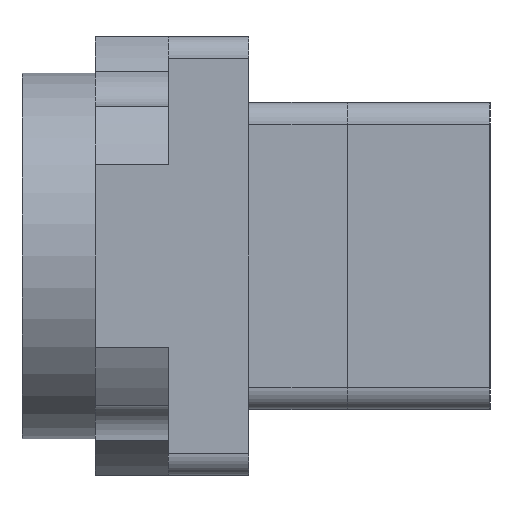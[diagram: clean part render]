
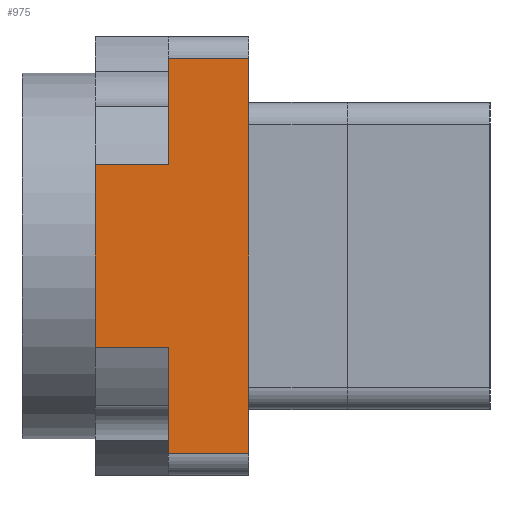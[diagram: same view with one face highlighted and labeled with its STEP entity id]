
A CAD part, left-side view. The second image highlights one B-rep face of the part: STEP entity #975.
In plain terms, the highlighted planar face has unit normal (-1, 0, 0).
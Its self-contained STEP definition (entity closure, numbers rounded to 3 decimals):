
#84 = FACE_OUTER_BOUND ( 'NONE', #1882, .T. ) ;
#139 = EDGE_CURVE ( 'NONE', #8904, #1073, #193, .T. ) ;
#191 = VERTEX_POINT ( 'NONE', #10254 ) ;
#193 = LINE ( 'NONE', #3719, #11022 ) ;
#386 = EDGE_CURVE ( 'NONE', #4009, #1203, #1746, .T. ) ;
#395 = CARTESIAN_POINT ( 'NONE',  ( -30., 11., 12.5 ) ) ;
#480 = VERTEX_POINT ( 'NONE', #4477 ) ;
#613 = DIRECTION ( 'NONE',  ( 0., -1., 0. ) ) ;
#843 = VERTEX_POINT ( 'NONE', #11009 ) ;
#845 = ORIENTED_EDGE ( 'NONE', *, *, #4982, .T. ) ;
#975 = ADVANCED_FACE ( 'NONE', ( #84 ), #3790, .F. ) ;
#1073 = VERTEX_POINT ( 'NONE', #4996 ) ;
#1203 = VERTEX_POINT ( 'NONE', #4066 ) ;
#1580 = VECTOR ( 'NONE', #4887, 1000. ) ;
#1662 = EDGE_CURVE ( 'NONE', #191, #4009, #3809, .T. ) ;
#1677 = VECTOR ( 'NONE', #613, 1000. ) ;
#1746 = LINE ( 'NONE', #10045, #4283 ) ;
#1832 = ORIENTED_EDGE ( 'NONE', *, *, #139, .T. ) ;
#1882 = EDGE_LOOP ( 'NONE', ( #4501, #7066, #10777, #4610, #10222, #1832, #2067, #845 ) ) ;
#2067 = ORIENTED_EDGE ( 'NONE', *, *, #3600, .F. ) ;
#2139 = CARTESIAN_POINT ( 'NONE',  ( -30., 11., -27. ) ) ;
#3502 = AXIS2_PLACEMENT_3D ( 'NONE', #2139, #4755, #5720 ) ;
#3600 = EDGE_CURVE ( 'NONE', #843, #1073, #9409, .T. ) ;
#3719 = CARTESIAN_POINT ( 'NONE',  ( -30., 21., -12.5 ) ) ;
#3790 = PLANE ( 'NONE',  #3502 ) ;
#3809 = LINE ( 'NONE', #10456, #1580 ) ;
#3993 = VECTOR ( 'NONE', #10822, 1000. ) ;
#4009 = VERTEX_POINT ( 'NONE', #395 ) ;
#4066 = CARTESIAN_POINT ( 'NONE',  ( -30., 11., 27. ) ) ;
#4102 = CARTESIAN_POINT ( 'NONE',  ( -30., 0., 27. ) ) ;
#4283 = VECTOR ( 'NONE', #6408, 1000. ) ;
#4477 = CARTESIAN_POINT ( 'NONE',  ( -30., 0., -27. ) ) ;
#4501 = ORIENTED_EDGE ( 'NONE', *, *, #8074, .T. ) ;
#4610 = ORIENTED_EDGE ( 'NONE', *, *, #1662, .F. ) ;
#4682 = DIRECTION ( 'NONE',  ( 0., -1., 0. ) ) ;
#4755 = DIRECTION ( 'NONE',  ( 1., 0., 0. ) ) ;
#4887 = DIRECTION ( 'NONE',  ( 0., -1., 0. ) ) ;
#4930 = VECTOR ( 'NONE', #10475, 1000. ) ;
#4982 = EDGE_CURVE ( 'NONE', #843, #480, #9768, .T. ) ;
#4996 = CARTESIAN_POINT ( 'NONE',  ( -30., 11., -12.5 ) ) ;
#5030 = LINE ( 'NONE', #8720, #4930 ) ;
#5103 = DIRECTION ( 'NONE',  ( 0., 0., 1. ) ) ;
#5720 = DIRECTION ( 'NONE',  ( 0., 0., -1. ) ) ;
#5842 = DIRECTION ( 'NONE',  ( 0., 0., 1. ) ) ;
#6230 = VERTEX_POINT ( 'NONE', #4102 ) ;
#6408 = DIRECTION ( 'NONE',  ( 0., 0., 1. ) ) ;
#6860 = CARTESIAN_POINT ( 'NONE',  ( -30., 21., -12.5 ) ) ;
#6868 = LINE ( 'NONE', #11419, #8622 ) ;
#7066 = ORIENTED_EDGE ( 'NONE', *, *, #9515, .F. ) ;
#7917 = EDGE_CURVE ( 'NONE', #8904, #191, #6868, .T. ) ;
#8074 = EDGE_CURVE ( 'NONE', #480, #6230, #11727, .T. ) ;
#8622 = VECTOR ( 'NONE', #5842, 1000. ) ;
#8720 = CARTESIAN_POINT ( 'NONE',  ( -30., 11., 27. ) ) ;
#8863 = CARTESIAN_POINT ( 'NONE',  ( -30., 11., -27. ) ) ;
#8904 = VERTEX_POINT ( 'NONE', #6860 ) ;
#9409 = LINE ( 'NONE', #9702, #9806 ) ;
#9515 = EDGE_CURVE ( 'NONE', #1203, #6230, #5030, .T. ) ;
#9702 = CARTESIAN_POINT ( 'NONE',  ( -30., 11., -27. ) ) ;
#9768 = LINE ( 'NONE', #8863, #1677 ) ;
#9806 = VECTOR ( 'NONE', #5103, 1000. ) ;
#10045 = CARTESIAN_POINT ( 'NONE',  ( -30., 11., -27. ) ) ;
#10222 = ORIENTED_EDGE ( 'NONE', *, *, #7917, .F. ) ;
#10254 = CARTESIAN_POINT ( 'NONE',  ( -30., 21., 12.5 ) ) ;
#10456 = CARTESIAN_POINT ( 'NONE',  ( -30., 21., 12.5 ) ) ;
#10475 = DIRECTION ( 'NONE',  ( 0., -1., 0. ) ) ;
#10777 = ORIENTED_EDGE ( 'NONE', *, *, #386, .F. ) ;
#10822 = DIRECTION ( 'NONE',  ( 0., 0., 1. ) ) ;
#11009 = CARTESIAN_POINT ( 'NONE',  ( -30., 11., -27. ) ) ;
#11022 = VECTOR ( 'NONE', #4682, 1000. ) ;
#11419 = CARTESIAN_POINT ( 'NONE',  ( -30., 21., -12.5 ) ) ;
#11542 = CARTESIAN_POINT ( 'NONE',  ( -30., 0., -27. ) ) ;
#11727 = LINE ( 'NONE', #11542, #3993 ) ;
